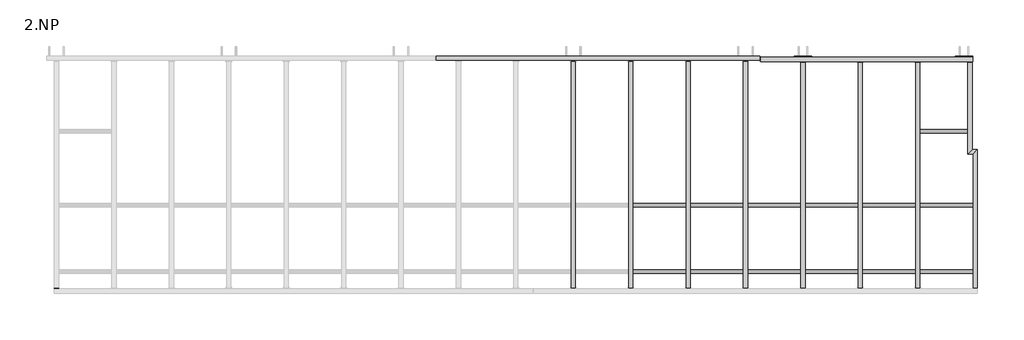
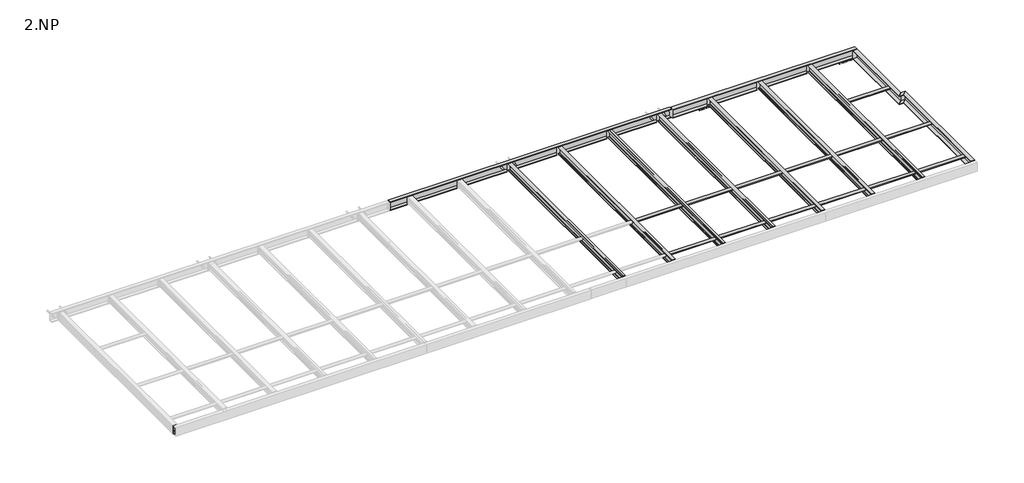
# One storey, part 2 of 18: 27 beams, 4 proxies.
"""IFC4 building model written with IfcOpenShell, lengths in millimetres."""

from ifc_helpers import new_model, si_unit, point, frame, frame_2d, origin, place, context, project, spatial, polyline, circle_curve, trimmed, segment, composite_curve, outline, extrude, faceted_brep, element, save

model = new_model("IFC4")

# Units and contexts
model_context = context("Model", 3, world=origin())
ifc_project = project(units=[si_unit("LENGTHUNIT", "METRE", prefix="MILLI")], contexts=[model_context])

# Site, building, storey
site = spatial("IfcSite", under=ifc_project)
building = spatial("IfcBuilding", under=site)
storey = spatial("IfcBuildingStorey", under=building, Name="2.NP", Elevation=3000.0)

# Beams
placement = place(None, origin())
element("IfcBeam", 1, ObjectType="CHS60.3*5", at=placement, inside=storey, context=model_context, shape_type="SweptSolid", body=[
    extrude(outline(composite_curve([segment(trimmed(circle_curve(frame_2d((1260.0, 3230.0)), 30.15), [point((1290.15, 3230.0))], [point((1229.85, 3230.0))], False, "CARTESIAN"), True, "CONTINUOUS"), segment(trimmed(circle_curve(frame_2d((1260.0, 3230.0)), 30.15), [point((1229.85, 3230.0))], [point((1290.15, 3230.0))], False, "CARTESIAN"), True, "CONTINUOUS")], self_intersect=False), holes=[composite_curve([segment(trimmed(circle_curve(frame_2d((1260.0, 3230.0)), 25.15), [point((1285.15, 3230.0))], [point((1234.85, 3230.0))], True, "CARTESIAN"), True, "CONTINUOUS"), segment(trimmed(circle_curve(frame_2d((1260.0, 3230.0)), 25.15), [point((1234.85, 3230.0))], [point((1285.15, 3230.0))], True, "CARTESIAN"), True, "CONTINUOUS")], self_intersect=False)]), frame((10052.35, 0.0, 0.0), z_axis=(1.0, 0.0, 0.0), x_axis=(0.0, 1.0, 0.0)), (0.0, 0.0, 1.0), 995.3),
])
element("IfcBeam", 2, ObjectType="CHS60.3*5", at=placement, inside=storey, context=model_context, shape_type="SweptSolid", body=[
    extrude(outline(composite_curve([segment(trimmed(circle_curve(frame_2d((1260.0, 3230.0)), 30.15), [point((1290.15, 3230.0))], [point((1229.85, 3230.0))], False, "CARTESIAN"), True, "CONTINUOUS"), segment(trimmed(circle_curve(frame_2d((1260.0, 3230.0)), 30.15), [point((1229.85, 3230.0))], [point((1290.15, 3230.0))], False, "CARTESIAN"), True, "CONTINUOUS")], self_intersect=False), holes=[composite_curve([segment(trimmed(circle_curve(frame_2d((1260.0, 3230.0)), 25.15), [point((1285.15, 3230.0))], [point((1234.85, 3230.0))], True, "CARTESIAN"), True, "CONTINUOUS"), segment(trimmed(circle_curve(frame_2d((1260.0, 3230.0)), 25.15), [point((1234.85, 3230.0))], [point((1285.15, 3230.0))], True, "CARTESIAN"), True, "CONTINUOUS")], self_intersect=False)]), frame((11052.35, 0.0, 0.0), z_axis=(1.0, 0.0, 0.0), x_axis=(0.0, 1.0, 0.0)), (0.0, 0.0, 1.0), 995.3),
])
element("IfcBeam", 3, ObjectType="CHS60.3*5", at=placement, inside=storey, context=model_context, shape_type="SweptSolid", body=[
    extrude(outline(composite_curve([segment(trimmed(circle_curve(frame_2d((1260.0, 3230.0)), 30.15), [point((1290.15, 3230.0))], [point((1229.85, 3230.0))], False, "CARTESIAN"), True, "CONTINUOUS"), segment(trimmed(circle_curve(frame_2d((1260.0, 3230.0)), 30.15), [point((1229.85, 3230.0))], [point((1290.15, 3230.0))], False, "CARTESIAN"), True, "CONTINUOUS")], self_intersect=False), holes=[composite_curve([segment(trimmed(circle_curve(frame_2d((1260.0, 3230.0)), 25.15), [point((1285.15, 3230.0))], [point((1234.85, 3230.0))], True, "CARTESIAN"), True, "CONTINUOUS"), segment(trimmed(circle_curve(frame_2d((1260.0, 3230.0)), 25.15), [point((1234.85, 3230.0))], [point((1285.15, 3230.0))], True, "CARTESIAN"), True, "CONTINUOUS")], self_intersect=False)]), frame((12052.35, 0.0, 0.0), z_axis=(1.0, 0.0, 0.0), x_axis=(0.0, 1.0, 0.0)), (0.0, 0.0, 1.0), 995.3),
])
element("IfcBeam", 4, ObjectType="CHS60.3*5", at=placement, inside=storey, context=model_context, shape_type="SweptSolid", body=[
    extrude(outline(composite_curve([segment(trimmed(circle_curve(frame_2d((1260.0, 3230.0)), 30.15), [point((1290.15, 3230.0))], [point((1229.85, 3230.0))], False, "CARTESIAN"), True, "CONTINUOUS"), segment(trimmed(circle_curve(frame_2d((1260.0, 3230.0)), 30.15), [point((1229.85, 3230.0))], [point((1290.15, 3230.0))], False, "CARTESIAN"), True, "CONTINUOUS")], self_intersect=False), holes=[composite_curve([segment(trimmed(circle_curve(frame_2d((1260.0, 3230.0)), 25.15), [point((1285.15, 3230.0))], [point((1234.85, 3230.0))], True, "CARTESIAN"), True, "CONTINUOUS"), segment(trimmed(circle_curve(frame_2d((1260.0, 3230.0)), 25.15), [point((1234.85, 3230.0))], [point((1285.15, 3230.0))], True, "CARTESIAN"), True, "CONTINUOUS")], self_intersect=False)]), frame((13052.35, 0.0, 0.0), z_axis=(1.0, 0.0, 0.0), x_axis=(0.0, 1.0, 0.0)), (0.0, 0.0, 1.0), 995.3),
])
element("IfcBeam", 5, ObjectType="CHS60.3*5", at=placement, inside=storey, context=model_context, shape_type="SweptSolid", body=[
    extrude(outline(composite_curve([segment(trimmed(circle_curve(frame_2d((1260.0, 3230.0)), 30.15), [point((1290.15, 3230.0))], [point((1229.85, 3230.0))], False, "CARTESIAN"), True, "CONTINUOUS"), segment(trimmed(circle_curve(frame_2d((1260.0, 3230.0)), 30.15), [point((1229.85, 3230.0))], [point((1290.15, 3230.0))], False, "CARTESIAN"), True, "CONTINUOUS")], self_intersect=False), holes=[composite_curve([segment(trimmed(circle_curve(frame_2d((1260.0, 3230.0)), 25.15), [point((1285.15, 3230.0))], [point((1234.85, 3230.0))], True, "CARTESIAN"), True, "CONTINUOUS"), segment(trimmed(circle_curve(frame_2d((1260.0, 3230.0)), 25.15), [point((1234.85, 3230.0))], [point((1285.15, 3230.0))], True, "CARTESIAN"), True, "CONTINUOUS")], self_intersect=False)]), frame((14052.4, 0.0, 0.0), z_axis=(1.0, 0.0, 0.0), x_axis=(0.0, 1.0, 0.0)), (0.0, 0.0, 1.0), 997.6),
])
element("IfcBeam", 6, ObjectType="CHS60.3*5", at=placement, inside=storey, context=model_context, shape_type="SweptSolid", body=[
    extrude(outline(composite_curve([segment(trimmed(circle_curve(frame_2d((1260.0, 3230.0)), 30.15), [point((1290.15, 3230.0))], [point((1229.85, 3230.0))], False, "CARTESIAN"), True, "CONTINUOUS"), segment(trimmed(circle_curve(frame_2d((1260.0, 3230.0)), 30.15), [point((1229.85, 3230.0))], [point((1290.15, 3230.0))], False, "CARTESIAN"), True, "CONTINUOUS")], self_intersect=False), holes=[composite_curve([segment(trimmed(circle_curve(frame_2d((1260.0, 3230.0)), 25.15), [point((1285.15, 3230.0))], [point((1234.85, 3230.0))], True, "CARTESIAN"), True, "CONTINUOUS"), segment(trimmed(circle_curve(frame_2d((1260.0, 3230.0)), 25.15), [point((1234.85, 3230.0))], [point((1285.15, 3230.0))], True, "CARTESIAN"), True, "CONTINUOUS")], self_intersect=False)]), frame((15050.0, 0.0, 0.0), z_axis=(1.0, 0.0, 0.0), x_axis=(0.0, 1.0, 0.0)), (0.0, 0.0, 1.0), 1034.5),
])
element("IfcBeam", 7, ObjectType="CHS60.3*5", at=placement, inside=storey, context=model_context, shape_type="SweptSolid", body=[
    extrude(outline(composite_curve([segment(trimmed(circle_curve(frame_2d((100.0, 3230.0)), 30.15), [point((130.15, 3230.0))], [point((69.85, 3230.0))], False, "CARTESIAN"), True, "CONTINUOUS"), segment(trimmed(circle_curve(frame_2d((100.0, 3230.0)), 30.15), [point((69.85, 3230.0))], [point((130.15, 3230.0))], False, "CARTESIAN"), True, "CONTINUOUS")], self_intersect=False), holes=[composite_curve([segment(trimmed(circle_curve(frame_2d((100.0, 3230.0)), 25.15), [point((125.15, 3230.0))], [point((74.85, 3230.0))], True, "CARTESIAN"), True, "CONTINUOUS"), segment(trimmed(circle_curve(frame_2d((100.0, 3230.0)), 25.15), [point((74.85, 3230.0))], [point((125.15, 3230.0))], True, "CARTESIAN"), True, "CONTINUOUS")], self_intersect=False)]), frame((10052.35, 0.0, 0.0), z_axis=(1.0, 0.0, 0.0), x_axis=(0.0, 1.0, 0.0)), (0.0, 0.0, 1.0), 995.3),
])
element("IfcBeam", 8, ObjectType="CHS60.3*5", at=placement, inside=storey, context=model_context, shape_type="SweptSolid", body=[
    extrude(outline(composite_curve([segment(trimmed(circle_curve(frame_2d((100.0, 3230.0)), 30.15), [point((130.15, 3230.0))], [point((69.85, 3230.0))], False, "CARTESIAN"), True, "CONTINUOUS"), segment(trimmed(circle_curve(frame_2d((100.0, 3230.0)), 30.15), [point((69.85, 3230.0))], [point((130.15, 3230.0))], False, "CARTESIAN"), True, "CONTINUOUS")], self_intersect=False), holes=[composite_curve([segment(trimmed(circle_curve(frame_2d((100.0, 3230.0)), 25.15), [point((125.15, 3230.0))], [point((74.85, 3230.0))], True, "CARTESIAN"), True, "CONTINUOUS"), segment(trimmed(circle_curve(frame_2d((100.0, 3230.0)), 25.15), [point((74.85, 3230.0))], [point((125.15, 3230.0))], True, "CARTESIAN"), True, "CONTINUOUS")], self_intersect=False)]), frame((11052.35, 0.0, 0.0), z_axis=(1.0, 0.0, 0.0), x_axis=(0.0, 1.0, 0.0)), (0.0, 0.0, 1.0), 995.3),
])
element("IfcBeam", 9, ObjectType="CHS60.3*5", at=placement, inside=storey, context=model_context, shape_type="SweptSolid", body=[
    extrude(outline(composite_curve([segment(trimmed(circle_curve(frame_2d((100.0, 3230.0)), 30.15), [point((130.15, 3230.0))], [point((69.85, 3230.0))], False, "CARTESIAN"), True, "CONTINUOUS"), segment(trimmed(circle_curve(frame_2d((100.0, 3230.0)), 30.15), [point((69.85, 3230.0))], [point((130.15, 3230.0))], False, "CARTESIAN"), True, "CONTINUOUS")], self_intersect=False), holes=[composite_curve([segment(trimmed(circle_curve(frame_2d((100.0, 3230.0)), 25.15), [point((125.15, 3230.0))], [point((74.85, 3230.0))], True, "CARTESIAN"), True, "CONTINUOUS"), segment(trimmed(circle_curve(frame_2d((100.0, 3230.0)), 25.15), [point((74.85, 3230.0))], [point((125.15, 3230.0))], True, "CARTESIAN"), True, "CONTINUOUS")], self_intersect=False)]), frame((12052.35, 0.0, 0.0), z_axis=(1.0, 0.0, 0.0), x_axis=(0.0, 1.0, 0.0)), (0.0, 0.0, 1.0), 995.3),
])
element("IfcBeam", 10, ObjectType="CHS60.3*5", at=placement, inside=storey, context=model_context, shape_type="SweptSolid", body=[
    extrude(outline(composite_curve([segment(trimmed(circle_curve(frame_2d((100.0, 3230.0)), 30.15), [point((130.15, 3230.0))], [point((69.85, 3230.0))], False, "CARTESIAN"), True, "CONTINUOUS"), segment(trimmed(circle_curve(frame_2d((100.0, 3230.0)), 30.15), [point((69.85, 3230.0))], [point((130.15, 3230.0))], False, "CARTESIAN"), True, "CONTINUOUS")], self_intersect=False), holes=[composite_curve([segment(trimmed(circle_curve(frame_2d((100.0, 3230.0)), 25.15), [point((125.15, 3230.0))], [point((74.85, 3230.0))], True, "CARTESIAN"), True, "CONTINUOUS"), segment(trimmed(circle_curve(frame_2d((100.0, 3230.0)), 25.15), [point((74.85, 3230.0))], [point((125.15, 3230.0))], True, "CARTESIAN"), True, "CONTINUOUS")], self_intersect=False)]), frame((13052.35, 0.0, 0.0), z_axis=(1.0, 0.0, 0.0), x_axis=(0.0, 1.0, 0.0)), (0.0, 0.0, 1.0), 995.3),
])
element("IfcBeam", 11, ObjectType="CHS60.3*5", at=placement, inside=storey, context=model_context, shape_type="SweptSolid", body=[
    extrude(outline(composite_curve([segment(trimmed(circle_curve(frame_2d((100.0, 3230.0)), 30.15), [point((130.15, 3230.0))], [point((69.85, 3230.0))], False, "CARTESIAN"), True, "CONTINUOUS"), segment(trimmed(circle_curve(frame_2d((100.0, 3230.0)), 30.15), [point((69.85, 3230.0))], [point((130.15, 3230.0))], False, "CARTESIAN"), True, "CONTINUOUS")], self_intersect=False), holes=[composite_curve([segment(trimmed(circle_curve(frame_2d((100.0, 3230.0)), 25.15), [point((125.15, 3230.0))], [point((74.85, 3230.0))], True, "CARTESIAN"), True, "CONTINUOUS"), segment(trimmed(circle_curve(frame_2d((100.0, 3230.0)), 25.15), [point((74.85, 3230.0))], [point((125.15, 3230.0))], True, "CARTESIAN"), True, "CONTINUOUS")], self_intersect=False)]), frame((14052.35, 0.0, 0.0), z_axis=(1.0, 0.0, 0.0), x_axis=(0.0, 1.0, 0.0)), (0.0, 0.0, 1.0), 995.3),
])
element("IfcBeam", 12, ObjectType="CHS60.3*5", at=placement, inside=storey, context=model_context, shape_type="SweptSolid", body=[
    extrude(outline(composite_curve([segment(trimmed(circle_curve(frame_2d((100.0, 3230.0)), 30.15), [point((130.15, 3230.0))], [point((69.85, 3230.0))], False, "CARTESIAN"), True, "CONTINUOUS"), segment(trimmed(circle_curve(frame_2d((100.0, 3230.0)), 30.15), [point((69.85, 3230.0))], [point((130.15, 3230.0))], False, "CARTESIAN"), True, "CONTINUOUS")], self_intersect=False), holes=[composite_curve([segment(trimmed(circle_curve(frame_2d((100.0, 3230.0)), 25.15), [point((125.15, 3230.0))], [point((74.85, 3230.0))], True, "CARTESIAN"), True, "CONTINUOUS"), segment(trimmed(circle_curve(frame_2d((100.0, 3230.0)), 25.15), [point((74.85, 3230.0))], [point((125.15, 3230.0))], True, "CARTESIAN"), True, "CONTINUOUS")], self_intersect=False)]), frame((15052.4, 0.0, 0.0), z_axis=(1.0, 0.0, 0.0), x_axis=(0.0, 1.0, 0.0)), (0.0, 0.0, 1.0), 1032.1),
])
element("IfcBeam", 13, ObjectType="CHS60.3*5", at=placement, inside=storey, context=model_context, shape_type="SweptSolid", body=[
    extrude(outline(composite_curve([segment(trimmed(circle_curve(frame_2d((2550.0, 3230.0)), 30.15), [point((2580.15, 3230.0))], [point((2519.85, 3230.0))], False, "CARTESIAN"), True, "CONTINUOUS"), segment(trimmed(circle_curve(frame_2d((2550.0, 3230.0)), 30.15), [point((2519.85, 3230.0))], [point((2580.15, 3230.0))], False, "CARTESIAN"), True, "CONTINUOUS")], self_intersect=False), holes=[composite_curve([segment(trimmed(circle_curve(frame_2d((2550.0, 3230.0)), 25.15), [point((2575.15, 3230.0))], [point((2524.85, 3230.0))], True, "CARTESIAN"), True, "CONTINUOUS"), segment(trimmed(circle_curve(frame_2d((2550.0, 3230.0)), 25.15), [point((2524.85, 3230.0))], [point((2575.15, 3230.0))], True, "CARTESIAN"), True, "CONTINUOUS")], self_intersect=False)]), frame((15050.0, 0.0, 0.0), z_axis=(1.0, 0.0, 0.0), x_axis=(0.0, 1.0, 0.0)), (0.0, 0.0, 1.0), 945.0),
])
element("IfcBeam", 14, ObjectType="L100*10", at=placement, inside=storey, context=model_context, shape_type="SweptSolid", body=[
    extrude(outline(composite_curve([segment(polyline([(3860.0, 3120.0), (3860.0, 3020.0), (3856.0, 3020.0)]), True, "CONTINUOUS"), segment(trimmed(circle_curve(frame_2d((3856.0, 3026.0)), 6.0), [point((3856.0, 3020.0))], [point((3850.0, 3026.0))], False, "CARTESIAN"), True, "CONTINUOUS"), segment(polyline([(3850.0, 3026.0), (3850.0, 3098.0)]), True, "CONTINUOUS"), segment(trimmed(circle_curve(frame_2d((3838.0, 3098.0)), 12.0), [point((3850.0, 3098.0))], [point((3838.0, 3110.0))], True, "CARTESIAN"), True, "CONTINUOUS"), segment(polyline([(3838.0, 3110.0), (3766.0, 3110.0)]), True, "CONTINUOUS"), segment(trimmed(circle_curve(frame_2d((3766.0, 3116.0)), 6.0), [point((3766.0, 3110.0))], [point((3760.0, 3116.0))], False, "CARTESIAN"), True, "CONTINUOUS"), segment(polyline([(3760.0, 3116.0), (3760.0, 3120.0), (3860.0, 3120.0)]), True, "CONTINUOUS")], self_intersect=False)), frame((15705.0, 0.0, 0.0), z_axis=(1.0, 0.0, 0.0), x_axis=(0.0, 1.0, 0.0)), (0.0, 0.0, 1.0), 300.0),
])
element("IfcBeam", 15, ObjectType="L100*10", at=placement, inside=storey, context=model_context, shape_type="SweptSolid", body=[
    extrude(outline(composite_curve([segment(polyline([(3860.0, 3120.0), (3860.0, 3020.0), (3856.0, 3020.0)]), True, "CONTINUOUS"), segment(trimmed(circle_curve(frame_2d((3856.0, 3026.0)), 6.0), [point((3856.0, 3020.0))], [point((3850.0, 3026.0))], False, "CARTESIAN"), True, "CONTINUOUS"), segment(polyline([(3850.0, 3026.0), (3850.0, 3098.0)]), True, "CONTINUOUS"), segment(trimmed(circle_curve(frame_2d((3838.0, 3098.0)), 12.0), [point((3850.0, 3098.0))], [point((3838.0, 3110.0))], True, "CARTESIAN"), True, "CONTINUOUS"), segment(polyline([(3838.0, 3110.0), (3766.0, 3110.0)]), True, "CONTINUOUS"), segment(trimmed(circle_curve(frame_2d((3766.0, 3116.0)), 6.0), [point((3766.0, 3110.0))], [point((3760.0, 3116.0))], False, "CARTESIAN"), True, "CONTINUOUS"), segment(polyline([(3760.0, 3116.0), (3760.0, 3120.0), (3860.0, 3120.0)]), True, "CONTINUOUS")], self_intersect=False)), frame((12900.0, 0.0, 0.0), z_axis=(1.0, 0.0, 0.0), x_axis=(0.0, 1.0, 0.0)), (0.0, 0.0, 1.0), 300.0),
])
element("IfcBeam", 16, ObjectType="IPE140", at=placement, inside=storey, context=model_context, shape_type="SweptSolid", body=[
    extrude(outline(composite_curve([segment(polyline([(3160.0, 9013.5), (3160.0, 9086.5), (3166.9000001, 9086.5), (3166.9000001, 9059.3499999)]), True, "CONTINUOUS"), segment(trimmed(circle_curve(frame_2d((3173.9000001, 9059.3499999)), 7.0), [point((3166.9000001, 9059.3499999))], [point((3173.9000001, 9052.3499999))], True, "CARTESIAN"), True, "CONTINUOUS"), segment(polyline([(3173.9000001, 9052.3499999), (3286.0999999, 9052.3499999)]), True, "CONTINUOUS"), segment(trimmed(circle_curve(frame_2d((3286.0999999, 9059.3499999)), 7.0), [point((3286.0999999, 9052.3499999))], [point((3293.0999999, 9059.3499999))], True, "CARTESIAN"), True, "CONTINUOUS"), segment(polyline([(3293.0999999, 9059.3499999), (3293.0999999, 9086.5), (3300.0, 9086.5), (3300.0, 9013.5), (3293.0999999, 9013.5), (3293.0999999, 9040.6500001)]), True, "CONTINUOUS"), segment(trimmed(circle_curve(frame_2d((3286.0999999, 9040.6500001)), 7.0), [point((3293.0999999, 9040.6500001))], [point((3286.0999999, 9047.6500001))], True, "CARTESIAN"), True, "CONTINUOUS"), segment(polyline([(3286.0999999, 9047.6500001), (3173.9000001, 9047.6500001)]), True, "CONTINUOUS"), segment(trimmed(circle_curve(frame_2d((3173.9000001, 9040.6500001)), 7.0), [point((3173.9000001, 9047.6500001))], [point((3166.9000001, 9040.6500001))], True, "CARTESIAN"), True, "CONTINUOUS"), segment(polyline([(3166.9000001, 9040.6500001), (3166.9000001, 9013.5), (3160.0, 9013.5)]), True, "CONTINUOUS")], self_intersect=False)), frame((0.0, -180.0, 0.0), z_axis=(0.0, 1.0, 0.0), x_axis=(0.0, 0.0, 1.0)), (0.0, 0.0, 1.0), 3947.0),
])
element("IfcBeam", 17, ObjectType="IPE140", at=placement, inside=storey, context=model_context, shape_type="SweptSolid", body=[
    extrude(outline(composite_curve([segment(polyline([(3160.0, 10013.5), (3160.0, 10086.5), (3166.9000001, 10086.5), (3166.9000001, 10059.3499999)]), True, "CONTINUOUS"), segment(trimmed(circle_curve(frame_2d((3173.9000001, 10059.3499999)), 7.0), [point((3166.9000001, 10059.3499999))], [point((3173.9000001, 10052.3499999))], True, "CARTESIAN"), True, "CONTINUOUS"), segment(polyline([(3173.9000001, 10052.3499999), (3286.0999999, 10052.3499999)]), True, "CONTINUOUS"), segment(trimmed(circle_curve(frame_2d((3286.0999999, 10059.3499999)), 7.0), [point((3286.0999999, 10052.3499999))], [point((3293.0999999, 10059.3499999))], True, "CARTESIAN"), True, "CONTINUOUS"), segment(polyline([(3293.0999999, 10059.3499999), (3293.0999999, 10086.5), (3300.0, 10086.5), (3300.0, 10013.5), (3293.0999999, 10013.5), (3293.0999999, 10040.6500001)]), True, "CONTINUOUS"), segment(trimmed(circle_curve(frame_2d((3286.0999999, 10040.6500001)), 7.0), [point((3293.0999999, 10040.6500001))], [point((3286.0999999, 10047.6500001))], True, "CARTESIAN"), True, "CONTINUOUS"), segment(polyline([(3286.0999999, 10047.6500001), (3173.9000001, 10047.6500001)]), True, "CONTINUOUS"), segment(trimmed(circle_curve(frame_2d((3173.9000001, 10040.6500001)), 7.0), [point((3173.9000001, 10047.6500001))], [point((3166.9000001, 10040.6500001))], True, "CARTESIAN"), True, "CONTINUOUS"), segment(polyline([(3166.9000001, 10040.6500001), (3166.9000001, 10013.5), (3160.0, 10013.5)]), True, "CONTINUOUS")], self_intersect=False)), frame((0.0, -180.0, 0.0), z_axis=(0.0, 1.0, 0.0), x_axis=(0.0, 0.0, 1.0)), (0.0, 0.0, 1.0), 3947.0),
])
element("IfcBeam", 18, ObjectType="IPE140", at=placement, inside=storey, context=model_context, shape_type="SweptSolid", body=[
    extrude(outline(composite_curve([segment(polyline([(3160.0, 11013.5), (3160.0, 11086.5), (3166.9000001, 11086.5), (3166.9000001, 11059.3499999)]), True, "CONTINUOUS"), segment(trimmed(circle_curve(frame_2d((3173.9000001, 11059.3499999)), 7.0), [point((3166.9000001, 11059.3499999))], [point((3173.9000001, 11052.3499999))], True, "CARTESIAN"), True, "CONTINUOUS"), segment(polyline([(3173.9000001, 11052.3499999), (3286.0999999, 11052.3499999)]), True, "CONTINUOUS"), segment(trimmed(circle_curve(frame_2d((3286.0999999, 11059.3499999)), 7.0), [point((3286.0999999, 11052.3499999))], [point((3293.0999999, 11059.3499999))], True, "CARTESIAN"), True, "CONTINUOUS"), segment(polyline([(3293.0999999, 11059.3499999), (3293.0999999, 11086.5), (3300.0, 11086.5), (3300.0, 11013.5), (3293.0999999, 11013.5), (3293.0999999, 11040.6500001)]), True, "CONTINUOUS"), segment(trimmed(circle_curve(frame_2d((3286.0999999, 11040.6500001)), 7.0), [point((3293.0999999, 11040.6500001))], [point((3286.0999999, 11047.6500001))], True, "CARTESIAN"), True, "CONTINUOUS"), segment(polyline([(3286.0999999, 11047.6500001), (3173.9000001, 11047.6500001)]), True, "CONTINUOUS"), segment(trimmed(circle_curve(frame_2d((3173.9000001, 11040.6500001)), 7.0), [point((3173.9000001, 11047.6500001))], [point((3166.9000001, 11040.6500001))], True, "CARTESIAN"), True, "CONTINUOUS"), segment(polyline([(3166.9000001, 11040.6500001), (3166.9000001, 11013.5), (3160.0, 11013.5)]), True, "CONTINUOUS")], self_intersect=False)), frame((0.0, -180.0, 0.0), z_axis=(0.0, 1.0, 0.0), x_axis=(0.0, 0.0, 1.0)), (0.0, 0.0, 1.0), 3947.0),
])
element("IfcBeam", 19, ObjectType="IPE140", at=placement, inside=storey, context=model_context, shape_type="SweptSolid", body=[
    extrude(outline(composite_curve([segment(polyline([(3160.0, 12013.5), (3160.0, 12086.5), (3166.9000001, 12086.5), (3166.9000001, 12059.3499999)]), True, "CONTINUOUS"), segment(trimmed(circle_curve(frame_2d((3173.9000001, 12059.3499999)), 7.0), [point((3166.9000001, 12059.3499999))], [point((3173.9000001, 12052.3499999))], True, "CARTESIAN"), True, "CONTINUOUS"), segment(polyline([(3173.9000001, 12052.3499999), (3286.0999999, 12052.3499999)]), True, "CONTINUOUS"), segment(trimmed(circle_curve(frame_2d((3286.0999999, 12059.3499999)), 7.0), [point((3286.0999999, 12052.3499999))], [point((3293.0999999, 12059.3499999))], True, "CARTESIAN"), True, "CONTINUOUS"), segment(polyline([(3293.0999999, 12059.3499999), (3293.0999999, 12086.5), (3300.0, 12086.5), (3300.0, 12013.5), (3293.0999999, 12013.5), (3293.0999999, 12040.6500001)]), True, "CONTINUOUS"), segment(trimmed(circle_curve(frame_2d((3286.0999999, 12040.6500001)), 7.0), [point((3293.0999999, 12040.6500001))], [point((3286.0999999, 12047.6500001))], True, "CARTESIAN"), True, "CONTINUOUS"), segment(polyline([(3286.0999999, 12047.6500001), (3173.9000001, 12047.6500001)]), True, "CONTINUOUS"), segment(trimmed(circle_curve(frame_2d((3173.9000001, 12040.6500001)), 7.0), [point((3173.9000001, 12047.6500001))], [point((3166.9000001, 12040.6500001))], True, "CARTESIAN"), True, "CONTINUOUS"), segment(polyline([(3166.9000001, 12040.6500001), (3166.9000001, 12013.5), (3160.0, 12013.5)]), True, "CONTINUOUS")], self_intersect=False)), frame((0.0, -180.0, 0.0), z_axis=(0.0, 1.0, 0.0), x_axis=(0.0, 0.0, 1.0)), (0.0, 0.0, 1.0), 3947.0),
])
element("IfcBeam", 20, ObjectType="IPE140", at=placement, inside=storey, context=model_context, shape_type="SweptSolid", body=[
    extrude(outline(composite_curve([segment(polyline([(3160.0, 13013.5), (3160.0, 13086.5), (3166.9000001, 13086.5), (3166.9000001, 13059.3499999)]), True, "CONTINUOUS"), segment(trimmed(circle_curve(frame_2d((3173.9000001, 13059.3499999)), 7.0), [point((3166.9000001, 13059.3499999))], [point((3173.9000001, 13052.3499999))], True, "CARTESIAN"), True, "CONTINUOUS"), segment(polyline([(3173.9000001, 13052.3499999), (3286.0999999, 13052.3499999)]), True, "CONTINUOUS"), segment(trimmed(circle_curve(frame_2d((3286.0999999, 13059.3499999)), 7.0), [point((3286.0999999, 13052.3499999))], [point((3293.0999999, 13059.3499999))], True, "CARTESIAN"), True, "CONTINUOUS"), segment(polyline([(3293.0999999, 13059.3499999), (3293.0999999, 13086.5), (3300.0, 13086.5), (3300.0, 13013.5), (3293.0999999, 13013.5), (3293.0999999, 13040.6500001)]), True, "CONTINUOUS"), segment(trimmed(circle_curve(frame_2d((3286.0999999, 13040.6500001)), 7.0), [point((3293.0999999, 13040.6500001))], [point((3286.0999999, 13047.6500001))], True, "CARTESIAN"), True, "CONTINUOUS"), segment(polyline([(3286.0999999, 13047.6500001), (3173.9000001, 13047.6500001)]), True, "CONTINUOUS"), segment(trimmed(circle_curve(frame_2d((3173.9000001, 13040.6500001)), 7.0), [point((3173.9000001, 13047.6500001))], [point((3166.9000001, 13040.6500001))], True, "CARTESIAN"), True, "CONTINUOUS"), segment(polyline([(3166.9000001, 13040.6500001), (3166.9000001, 13013.5), (3160.0, 13013.5)]), True, "CONTINUOUS")], self_intersect=False)), frame((0.0, -180.0, 0.0), z_axis=(0.0, 1.0, 0.0), x_axis=(0.0, 0.0, 1.0)), (0.0, 0.0, 1.0), 3927.0),
])
element("IfcBeam", 21, ObjectType="IPE140", at=placement, inside=storey, context=model_context, shape_type="SweptSolid", body=[
    extrude(outline(composite_curve([segment(polyline([(3160.0, 14013.5), (3160.0, 14086.5), (3166.9000001, 14086.5), (3166.9000001, 14059.3499999)]), True, "CONTINUOUS"), segment(trimmed(circle_curve(frame_2d((3173.9000001, 14059.3499999)), 7.0), [point((3166.9000001, 14059.3499999))], [point((3173.9000001, 14052.3499999))], True, "CARTESIAN"), True, "CONTINUOUS"), segment(polyline([(3173.9000001, 14052.3499999), (3286.0999999, 14052.3499999)]), True, "CONTINUOUS"), segment(trimmed(circle_curve(frame_2d((3286.0999999, 14059.3499999)), 7.0), [point((3286.0999999, 14052.3499999))], [point((3293.0999999, 14059.3499999))], True, "CARTESIAN"), True, "CONTINUOUS"), segment(polyline([(3293.0999999, 14059.3499999), (3293.0999999, 14086.5), (3300.0, 14086.5), (3300.0, 14013.5), (3293.0999999, 14013.5), (3293.0999999, 14040.6500001)]), True, "CONTINUOUS"), segment(trimmed(circle_curve(frame_2d((3286.0999999, 14040.6500001)), 7.0), [point((3293.0999999, 14040.6500001))], [point((3286.0999999, 14047.6500001))], True, "CARTESIAN"), True, "CONTINUOUS"), segment(polyline([(3286.0999999, 14047.6500001), (3173.9000001, 14047.6500001)]), True, "CONTINUOUS"), segment(trimmed(circle_curve(frame_2d((3173.9000001, 14040.6500001)), 7.0), [point((3173.9000001, 14047.6500001))], [point((3166.9000001, 14040.6500001))], True, "CARTESIAN"), True, "CONTINUOUS"), segment(polyline([(3166.9000001, 14040.6500001), (3166.9000001, 14013.5), (3160.0, 14013.5)]), True, "CONTINUOUS")], self_intersect=False)), frame((0.0, -180.0, 0.0), z_axis=(0.0, 1.0, 0.0), x_axis=(0.0, 0.0, 1.0)), (0.0, 0.0, 1.0), 3927.0),
])
element("IfcBeam", 22, ObjectType="IPE140", at=placement, inside=storey, context=model_context, shape_type="SweptSolid", body=[
    extrude(outline(composite_curve([segment(polyline([(3160.0, 15013.5), (3160.0, 15086.5), (3166.9000001, 15086.5), (3166.9000001, 15059.3499999)]), True, "CONTINUOUS"), segment(trimmed(circle_curve(frame_2d((3173.9000001, 15059.3499999)), 7.0), [point((3166.9000001, 15059.3499999))], [point((3173.9000001, 15052.3499999))], True, "CARTESIAN"), True, "CONTINUOUS"), segment(polyline([(3173.9000001, 15052.3499999), (3286.0999999, 15052.3499999)]), True, "CONTINUOUS"), segment(trimmed(circle_curve(frame_2d((3286.0999999, 15059.3499999)), 7.0), [point((3286.0999999, 15052.3499999))], [point((3293.0999999, 15059.3499999))], True, "CARTESIAN"), True, "CONTINUOUS"), segment(polyline([(3293.0999999, 15059.3499999), (3293.0999999, 15086.5), (3300.0, 15086.5), (3300.0, 15013.5), (3293.0999999, 15013.5), (3293.0999999, 15040.6500001)]), True, "CONTINUOUS"), segment(trimmed(circle_curve(frame_2d((3286.0999999, 15040.6500001)), 7.0), [point((3293.0999999, 15040.6500001))], [point((3286.0999999, 15047.6500001))], True, "CARTESIAN"), True, "CONTINUOUS"), segment(polyline([(3286.0999999, 15047.6500001), (3173.9000001, 15047.6500001)]), True, "CONTINUOUS"), segment(trimmed(circle_curve(frame_2d((3173.9000001, 15040.6500001)), 7.0), [point((3173.9000001, 15047.6500001))], [point((3166.9000001, 15040.6500001))], True, "CARTESIAN"), True, "CONTINUOUS"), segment(polyline([(3166.9000001, 15040.6500001), (3166.9000001, 15013.5), (3160.0, 15013.5)]), True, "CONTINUOUS")], self_intersect=False)), frame((0.0, -180.0, 0.0), z_axis=(0.0, 1.0, 0.0), x_axis=(0.0, 0.0, 1.0)), (0.0, 0.0, 1.0), 3927.0),
])
element("IfcBeam", 23, ObjectType="UPE180", at=placement, inside=storey, context=model_context, shape_type="Brep", body=[
    faceted_brep([(16090.0, 2230.0, 3120.0), (16015.0, 2155.0, 3120.0), (15925.0, 2155.0, 3120.0), (16000.0, 2230.0, 3120.0), (16015.0, 2155.0, 3130.5), (15925.0, 2155.0, 3130.5), (16084.5, 2224.5, 3130.5), (15994.5, 2224.5, 3130.5), (16084.5, 2224.5, 3289.5), (15994.5, 2224.5, 3289.5), (16015.0, 2155.0, 3289.5), (15925.0, 2155.0, 3289.5), (16015.0, 2155.0, 3300.0), (15925.0, 2155.0, 3300.0), (16090.0, 2230.0, 3300.0), (16000.0, 2230.0, 3300.0)], [[[0, 1, 2, 3]], [[2, 1, 4, 5]], [[5, 4, 6, 7]], [[6, 8, 9, 7]], [[8, 10, 11, 9]], [[11, 10, 12, 13]], [[13, 12, 14, 15]], [[14, 0, 3, 15]], [[1, 0, 14, 12, 10, 8, 6, 4]], [[3, 2, 5, 7, 9, 11, 13, 15]]]),
])
element("IfcBeam", 24, ObjectType="UPE180", at=placement, inside=storey, context=model_context, shape_type="Brep", body=[
    faceted_brep([(16090.0, -180.0, 3300.0), (16015.0, -180.0, 3300.0), (16015.0, -180.0, 3289.5), (16084.5, -180.0, 3289.5), (16084.5, -180.0, 3130.5), (16015.0, -180.0, 3130.5), (16015.0, -180.0, 3120.0), (16090.0, -180.0, 3120.0), (16090.0, 2230.0, 3300.0), (16015.0, 2155.0, 3300.0), (16015.0, 2155.0, 3289.5), (16084.5, 2224.5, 3289.5), (16084.5, 2224.5, 3130.5), (16015.0, 2155.0, 3130.5), (16015.0, 2155.0, 3120.0), (16090.0, 2230.0, 3120.0)], [[[0, 1, 2, 3, 4, 5, 6, 7]], [[1, 0, 8, 9]], [[2, 1, 9, 10]], [[3, 2, 10, 11]], [[4, 3, 11, 12]], [[5, 4, 12, 13]], [[6, 5, 13, 14]], [[7, 6, 14, 15]], [[0, 7, 15, 8]], [[9, 8, 15, 14, 13, 12, 11, 10]]]),
])
element("IfcBeam", 25, ObjectType="UPE180", at=placement, inside=storey, context=model_context, shape_type="Brep", body=[
    faceted_brep([(16000.0, 3745.0, 3120.0), (15925.0, 3745.0, 3120.0), (15925.0, 3745.0, 3130.5), (15994.5, 3745.0, 3130.5), (15994.5, 3745.0, 3289.5), (15925.0, 3745.0, 3289.5), (15925.0, 3745.0, 3300.0), (16000.0, 3745.0, 3300.0), (16000.0, 2230.0, 3120.0), (15925.0, 2155.0, 3120.0), (15925.0, 2155.0, 3130.5), (15994.5, 2224.5, 3130.5), (15994.5, 2224.5, 3289.5), (15925.0, 2155.0, 3289.5), (15925.0, 2155.0, 3300.0), (16000.0, 2230.0, 3300.0)], [[[0, 1, 2, 3, 4, 5, 6, 7]], [[1, 0, 8, 9]], [[2, 1, 9, 10]], [[3, 2, 10, 11]], [[4, 3, 11, 12]], [[5, 4, 12, 13]], [[6, 5, 13, 14]], [[7, 6, 14, 15]], [[0, 7, 15, 8]], [[9, 8, 15, 14, 13, 12, 11, 10]]]),
])
element("IfcBeam", 26, ObjectType="UPE180", at=placement, inside=storey, context=model_context, shape_type="SweptSolid", body=[
    extrude(outline(polyline([(3860.0, 3300.0), (3860.0, 3120.0), (3785.0, 3120.0), (3785.0, 3130.5), (3854.5, 3130.5), (3854.5, 3289.5), (3785.0, 3289.5), (3785.0, 3300.0), (3860.0, 3300.0)])), frame((6660.0, 0.0, 0.0), z_axis=(1.0, 0.0, 0.0), x_axis=(0.0, 1.0, 0.0)), (0.0, 0.0, 1.0), 5635.0),
])
element("IfcBeam", 27, ObjectType="UPE180", at=placement, inside=storey, context=model_context, shape_type="SweptSolid", body=[
    extrude(outline(polyline([(3840.0, 3300.0), (3840.0, 3120.0), (3765.0, 3120.0), (3765.0, 3130.5), (3834.5, 3130.5), (3834.5, 3289.5), (3765.0, 3289.5), (3765.0, 3300.0), (3840.0, 3300.0)])), frame((12315.0, 0.0, 0.0), z_axis=(1.0, 0.0, 0.0), x_axis=(0.0, 1.0, 0.0)), (0.0, 0.0, 1.0), 3690.0),
])

# Proxies
element("IfcBuildingElementProxy", 28, Name="PLECH", ObjectType="PLECH", at=placement, inside=storey, context=model_context, shape_type="SweptSolid", body=[
    extrude(outline(polyline([(85.0, -190.0), (10.0, -190.0), (10.0, -180.0), (85.0, -180.0), (85.0, -190.0)])), frame((0.0, 0.0, 3130.0), z_axis=(0.0, 0.0, 1.0), x_axis=(1.0, 0.0, 0.0)), (0.0, 0.0, 1.0), 160.0),
])
element("IfcBuildingElementProxy", 29, Name="PLECH", ObjectType="PLECH", at=placement, inside=storey, context=model_context, shape_type="SweptSolid", body=[
    extrude(outline(polyline([(85.0, -200.0), (10.0, -200.0), (10.0, -190.0), (85.0, -190.0), (85.0, -200.0)])), frame((0.0, 0.0, 3130.0), z_axis=(0.0, 0.0, 1.0), x_axis=(1.0, 0.0, 0.0)), (0.0, 0.0, 1.0), 160.0),
])
element("IfcBuildingElementProxy", 30, Name="PLECH", ObjectType="PLECH", at=placement, inside=storey, context=model_context, shape_type="SweptSolid", body=[
    extrude(outline(composite_curve([segment(polyline([(-200.0, 3289.5), (-200.0, 3130.5), (-249.5, 3130.5)]), True, "CONTINUOUS"), segment(trimmed(circle_curve(frame_2d((-269.5, 3130.5)), 20.0), [point((-249.5, 3130.5))], [point((-269.5, 3150.5))], True, "CARTESIAN"), True, "CONTINUOUS"), segment(polyline([(-269.5, 3150.5), (-269.5, 3269.5)]), True, "CONTINUOUS"), segment(trimmed(circle_curve(frame_2d((-269.5, 3289.5)), 20.0), [point((-269.5, 3269.5))], [point((-249.5, 3289.5))], True, "CARTESIAN"), True, "CONTINUOUS"), segment(polyline([(-249.5, 3289.5), (-200.0, 3289.5)]), True, "CONTINUOUS")], self_intersect=False)), frame((15.5, 0.0, 0.0), z_axis=(1.0, 0.0, 0.0), x_axis=(0.0, 1.0, 0.0)), (0.0, 0.0, 1.0), 8.0),
])
element("IfcBuildingElementProxy", 31, Name="Bolt assembly", ObjectType="Bolt assembly", at=placement, inside=storey, context=model_context, shape_type="SweptSolid", body=[
    extrude(outline(composite_curve([segment(trimmed(circle_curve(frame_2d((3170.0, 50.0)), 9.0), [point((3170.0, 41.0))], [point((3170.0, 59.0))], False, "CARTESIAN"), True, "CONTINUOUS"), segment(trimmed(circle_curve(frame_2d((3170.0, 50.0)), 9.0), [point((3170.0, 59.0))], [point((3170.0, 41.0))], False, "CARTESIAN"), True, "CONTINUOUS")], self_intersect=False)), frame((0.0, -199.9, 0.0), z_axis=(0.0, 1.0, 0.0), x_axis=(0.0, 0.0, 1.0)), (0.0, 0.0, 1.0), 10.0),
    extrude(outline(polyline([(3170.0, 36.1435935), (3158.0, 43.0717968), (3158.0, 56.9282032), (3170.0, 63.8564065), (3182.0, 56.9282032), (3182.0, 43.0717968), (3170.0, 36.1435935)])), frame((0.0, -213.0, 0.0), z_axis=(0.0, 1.0, 0.0), x_axis=(0.0, 0.0, 1.0)), (0.0, 0.0, 1.0), 10.0),
    extrude(outline(composite_curve([segment(trimmed(circle_curve(frame_2d((3170.0, 50.0)), 8.0), [point((3170.0, 42.0))], [point((3170.0, 58.0))], False, "CARTESIAN"), True, "CONTINUOUS"), segment(trimmed(circle_curve(frame_2d((3170.0, 50.0)), 8.0), [point((3170.0, 58.0))], [point((3170.0, 42.0))], False, "CARTESIAN"), True, "CONTINUOUS")], self_intersect=False)), frame((0.0, -203.0, 0.0), z_axis=(0.0, 1.0, 0.0), x_axis=(0.0, 0.0, 1.0)), (0.0, 0.0, 1.0), 50.0),
    extrude(outline(composite_curve([segment(trimmed(circle_curve(frame_2d((3170.0, 50.0)), 15.0), [point((3170.0, 35.0))], [point((3170.0, 65.0))], False, "CARTESIAN"), True, "CONTINUOUS"), segment(trimmed(circle_curve(frame_2d((3170.0, 50.0)), 15.0), [point((3170.0, 65.0))], [point((3170.0, 35.0))], False, "CARTESIAN"), True, "CONTINUOUS")], self_intersect=False)), frame((0.0, -203.0, 0.0), z_axis=(0.0, 1.0, 0.0), x_axis=(0.0, 0.0, 1.0)), (0.0, 0.0, 1.0), 3.0),
    extrude(outline(composite_curve([segment(trimmed(circle_curve(frame_2d((3170.0, 50.0)), 15.0), [point((3170.0, 35.0))], [point((3170.0, 65.0))], False, "CARTESIAN"), True, "CONTINUOUS"), segment(trimmed(circle_curve(frame_2d((3170.0, 50.0)), 15.0), [point((3170.0, 65.0))], [point((3170.0, 35.0))], False, "CARTESIAN"), True, "CONTINUOUS")], self_intersect=False)), frame((0.0, -180.0, 0.0), z_axis=(0.0, 1.0, 0.0), x_axis=(0.0, 0.0, 1.0)), (0.0, 0.0, 1.0), 3.0),
    extrude(outline(polyline([(3170.0, 34.5558803), (3156.625, 42.2779401), (3156.625, 57.7220599), (3170.0, 65.4441197), (3183.375, 57.7220599), (3183.375, 42.2779401), (3170.0, 34.5558803)])), frame((0.0, -177.0, 0.0), z_axis=(0.0, 1.0, 0.0), x_axis=(0.0, 0.0, 1.0)), (0.0, 0.0, 1.0), 13.0),
    extrude(outline(composite_curve([segment(trimmed(circle_curve(frame_2d((3170.0, 50.0)), 9.0), [point((3170.0, 41.0))], [point((3170.0, 59.0))], False, "CARTESIAN"), True, "CONTINUOUS"), segment(trimmed(circle_curve(frame_2d((3170.0, 50.0)), 9.0), [point((3170.0, 59.0))], [point((3170.0, 41.0))], False, "CARTESIAN"), True, "CONTINUOUS")], self_intersect=False)), frame((0.0, -190.1, 0.0), z_axis=(0.0, 1.0, 0.0), x_axis=(0.0, 0.0, 1.0)), (0.0, 0.0, 1.0), 10.1),
    extrude(outline(composite_curve([segment(trimmed(circle_curve(frame_2d((3250.0, 50.0)), 9.0), [point((3250.0, 41.0))], [point((3250.0, 59.0))], False, "CARTESIAN"), True, "CONTINUOUS"), segment(trimmed(circle_curve(frame_2d((3250.0, 50.0)), 9.0), [point((3250.0, 59.0))], [point((3250.0, 41.0))], False, "CARTESIAN"), True, "CONTINUOUS")], self_intersect=False)), frame((0.0, -199.9, 0.0), z_axis=(0.0, 1.0, 0.0), x_axis=(0.0, 0.0, 1.0)), (0.0, 0.0, 1.0), 10.0),
    extrude(outline(polyline([(3250.0, 36.1435935), (3238.0, 43.0717968), (3238.0, 56.9282032), (3250.0, 63.8564065), (3262.0, 56.9282032), (3262.0, 43.0717968), (3250.0, 36.1435935)])), frame((0.0, -213.0, 0.0), z_axis=(0.0, 1.0, 0.0), x_axis=(0.0, 0.0, 1.0)), (0.0, 0.0, 1.0), 10.0),
    extrude(outline(composite_curve([segment(trimmed(circle_curve(frame_2d((3250.0, 50.0)), 8.0), [point((3250.0, 42.0))], [point((3250.0, 58.0))], False, "CARTESIAN"), True, "CONTINUOUS"), segment(trimmed(circle_curve(frame_2d((3250.0, 50.0)), 8.0), [point((3250.0, 58.0))], [point((3250.0, 42.0))], False, "CARTESIAN"), True, "CONTINUOUS")], self_intersect=False)), frame((0.0, -203.0, 0.0), z_axis=(0.0, 1.0, 0.0), x_axis=(0.0, 0.0, 1.0)), (0.0, 0.0, 1.0), 50.0),
    extrude(outline(composite_curve([segment(trimmed(circle_curve(frame_2d((3250.0, 50.0)), 15.0), [point((3250.0, 35.0))], [point((3250.0, 65.0))], False, "CARTESIAN"), True, "CONTINUOUS"), segment(trimmed(circle_curve(frame_2d((3250.0, 50.0)), 15.0), [point((3250.0, 65.0))], [point((3250.0, 35.0))], False, "CARTESIAN"), True, "CONTINUOUS")], self_intersect=False)), frame((0.0, -203.0, 0.0), z_axis=(0.0, 1.0, 0.0), x_axis=(0.0, 0.0, 1.0)), (0.0, 0.0, 1.0), 3.0),
    extrude(outline(composite_curve([segment(trimmed(circle_curve(frame_2d((3250.0, 50.0)), 15.0), [point((3250.0, 35.0))], [point((3250.0, 65.0))], False, "CARTESIAN"), True, "CONTINUOUS"), segment(trimmed(circle_curve(frame_2d((3250.0, 50.0)), 15.0), [point((3250.0, 65.0))], [point((3250.0, 35.0))], False, "CARTESIAN"), True, "CONTINUOUS")], self_intersect=False)), frame((0.0, -180.0, 0.0), z_axis=(0.0, 1.0, 0.0), x_axis=(0.0, 0.0, 1.0)), (0.0, 0.0, 1.0), 3.0),
    extrude(outline(polyline([(3250.0, 34.5558803), (3236.625, 42.2779401), (3236.625, 57.7220599), (3250.0, 65.4441197), (3263.375, 57.7220599), (3263.375, 42.2779401), (3250.0, 34.5558803)])), frame((0.0, -177.0, 0.0), z_axis=(0.0, 1.0, 0.0), x_axis=(0.0, 0.0, 1.0)), (0.0, 0.0, 1.0), 13.0),
    extrude(outline(composite_curve([segment(trimmed(circle_curve(frame_2d((3250.0, 50.0)), 9.0), [point((3250.0, 41.0))], [point((3250.0, 59.0))], False, "CARTESIAN"), True, "CONTINUOUS"), segment(trimmed(circle_curve(frame_2d((3250.0, 50.0)), 9.0), [point((3250.0, 59.0))], [point((3250.0, 41.0))], False, "CARTESIAN"), True, "CONTINUOUS")], self_intersect=False)), frame((0.0, -190.1, 0.0), z_axis=(0.0, 1.0, 0.0), x_axis=(0.0, 0.0, 1.0)), (0.0, 0.0, 1.0), 10.1),
])

save(model, "model.ifc")
